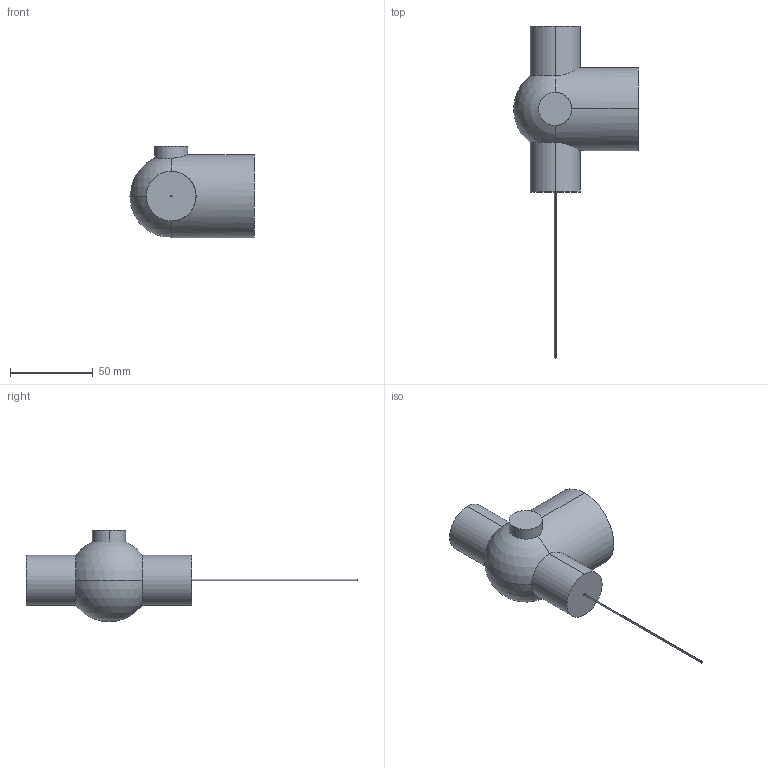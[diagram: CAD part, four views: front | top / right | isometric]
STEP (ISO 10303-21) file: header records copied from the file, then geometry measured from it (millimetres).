
FILE_DESCRIPTION (( 'STEP AP203' ), '1' );
FILE_NAME ('reference_Défaut_sldprt.STEP', '2018-04-06T14:29:01', ( '' ), ( '' ), 'SwSTEP 2.0', 'SolidWorks 2013', '' );
FILE_SCHEMA (( 'CONFIG_CONTROL_DESIGN' ));
Length unit declared in the file: millimetre
Products named in the file (1): reference_Défaut_sldprt
Bounding box: 74.91 x 200 x 55 mm (x, y, z)
Volume: 170671.2 mm3; surface area: 19757.6 mm2
Topology: 1 solids, 1 shells, 17 faces, 38 edges, 23 vertices
Faces by surface type: cylinder 10, plane 5, sphere 2
Entity records: 689 total; most frequent: CARTESIAN_POINT 224, DIRECTION 92, ORIENTED_EDGE 74, AXIS2_PLACEMENT_3D 41, EDGE_CURVE 37, CIRCLE 23, VERTEX_POINT 23, EDGE_LOOP 18
